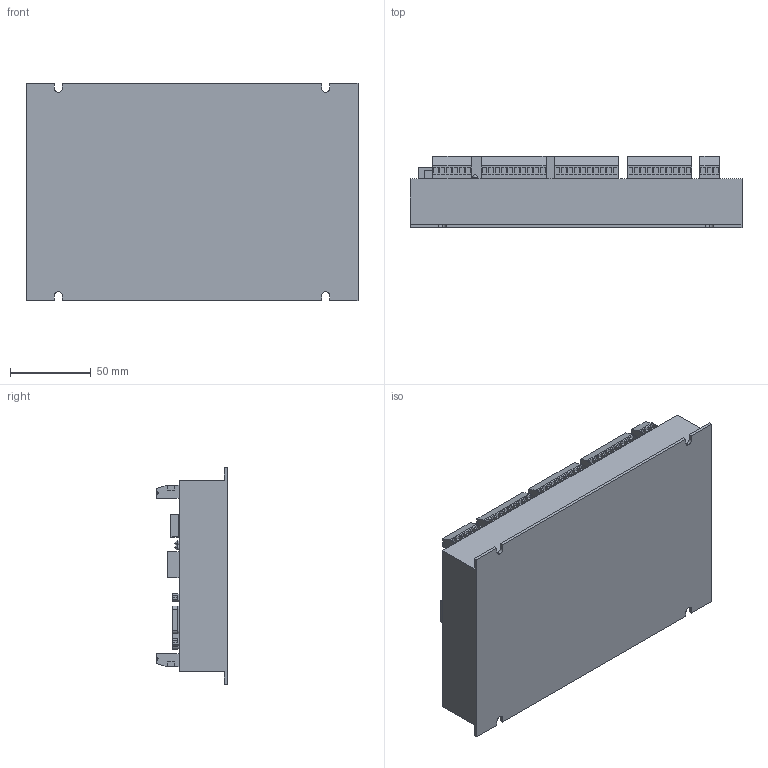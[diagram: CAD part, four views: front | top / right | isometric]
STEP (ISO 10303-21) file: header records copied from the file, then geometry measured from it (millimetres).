
FILE_DESCRIPTION (( 'STEP AP214' ), '1' );
FILE_NAME ('ZMC304.STEP', '2018-08-24T09:30:52', ( 'Microsoft' ), ( ' ' ), 'SwSTEP 2.0', 'SolidWorks 2014', '' );
FILE_SCHEMA (( 'AUTOMOTIVE_DESIGN' ));
Length unit declared in the file: millimetre
Products named in the file (11): 厙諳-傻; 三连灯; 傷赽-苤-6; 傷赽-苤-3; 傷赽-苤-10; 腑; U攫; 9渀-2齬-鼠芛; 15渀-3齬-譫芛; ZMC303-304-304X-306X-俋褲; ZMC304
Assembly tree (20 placements, depth 3):
  ZMC304
    ZMC303-304-304X-306X-俋褲
    15渀-3齬-譫芛  x4
    9渀-2齬-鼠芛
    U攫
    腑
    傷赽-苤-10  x5
    傷赽-苤-3
    傷赽-苤-6
    三连灯
      腑  x3
    厙諳-傻
Bounding box: 205 x 44 x 134 mm (x, y, z)
Volume: 757579.6 mm3; surface area: 94914.4 mm2
Topology: 78 solids, 78 shells, 2582 faces, 6687 edges, 4454 vertices
Faces by surface type: plane 1866, bspline 388, cylinder 320, sphere 8
Entity records: 73464 total; most frequent: CARTESIAN_POINT 27862, ORIENTED_EDGE 9784, DIRECTION 7350, EDGE_CURVE 4892, VECTOR 3804, LINE 3804, VERTEX_POINT 3261, EDGE_LOOP 1909
